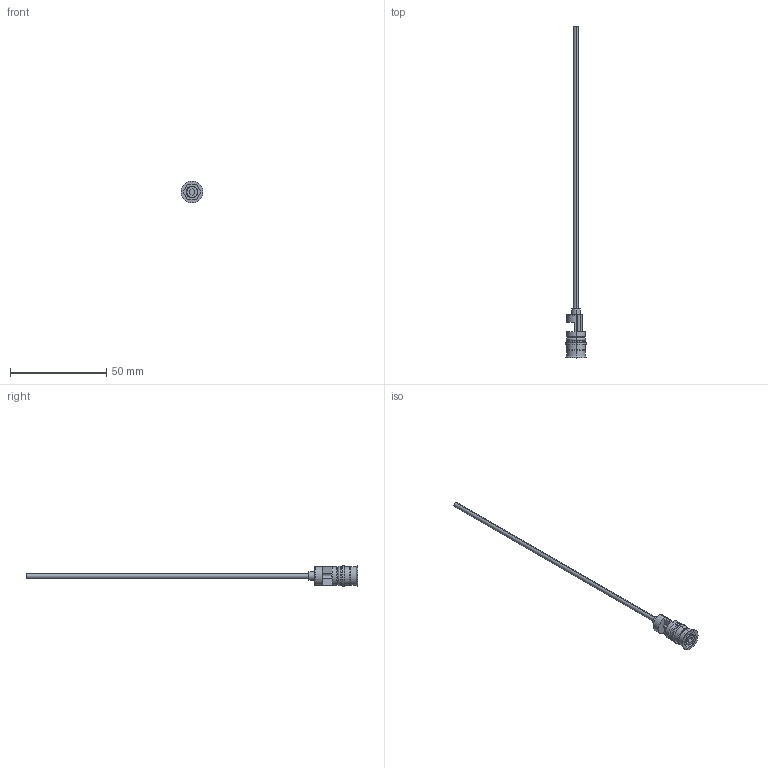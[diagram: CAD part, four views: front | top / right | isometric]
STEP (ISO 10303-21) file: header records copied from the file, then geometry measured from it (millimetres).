
FILE_DESCRIPTION (( 'STEP AP203' ), '1' );
FILE_NAME ('RF-10Fx150-2,5.STEP', '2015-11-19T16:03:11', ( 'Balzi' ), ( '' ), 'SwSTEP 2.0', 'SolidWorks 2015', '' );
FILE_SCHEMA (( 'CONFIG_CONTROL_DESIGN' ));
Length unit declared in the file: millimetre
Products named in the file (1): RF-10Fx150-2,5
Bounding box: 11.3 x 172.5 x 11.3 mm (x, y, z)
Volume: 1533.6 mm3; surface area: 3402.2 mm2
Topology: 1 solids, 1 shells, 71 faces, 164 edges, 102 vertices
Faces by surface type: plane 26, cylinder 25, cone 12, torus 8
Entity records: 2114 total; most frequent: DIRECTION 385, CARTESIAN_POINT 357, ORIENTED_EDGE 328, EDGE_CURVE 164, AXIS2_PLACEMENT_3D 154, VERTEX_POINT 102, CIRCLE 82, EDGE_LOOP 80
